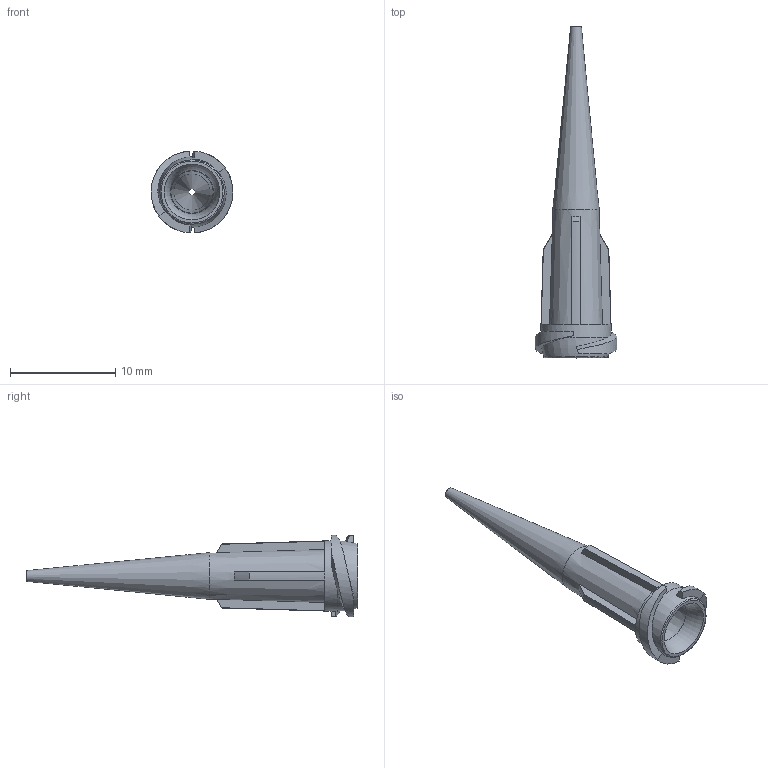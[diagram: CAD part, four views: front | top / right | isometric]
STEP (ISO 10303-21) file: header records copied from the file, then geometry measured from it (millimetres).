
FILE_DESCRIPTION (( 'STEP AP214' ), '1' );
FILE_NAME ('DAV TT 20.STEP', '2023-09-28T13:08:24', ( '' ), ( '' ), 'SwSTEP 2.0', 'SolidWorks 2022', '' );
FILE_SCHEMA (( 'AUTOMOTIVE_DESIGN' ));
Length unit declared in the file: millimetre
Products named in the file (1): DAV TT 20
Bounding box: 7.76 x 31.5 x 7.77 mm (x, y, z)
Volume: 212.5 mm3; surface area: 771.8 mm2
Topology: 1 solids, 1 shells, 48 faces, 123 edges, 77 vertices
Faces by surface type: plane 22, bspline 10, cone 9, torus 5, cylinder 2
Full cylindrical faces by diameter (mm): 6.655 x1
Entity records: 1682 total; most frequent: CARTESIAN_POINT 711, ORIENTED_EDGE 208, DIRECTION 164, EDGE_CURVE 104, VERTEX_POINT 70, AXIS2_PLACEMENT_3D 69, EDGE_LOOP 58, FACE_OUTER_BOUND 51
